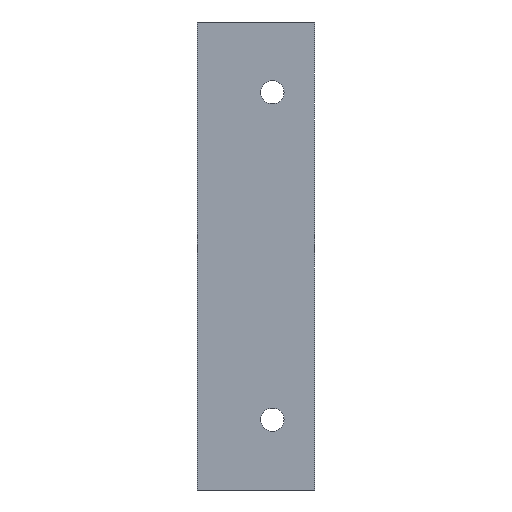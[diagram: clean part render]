
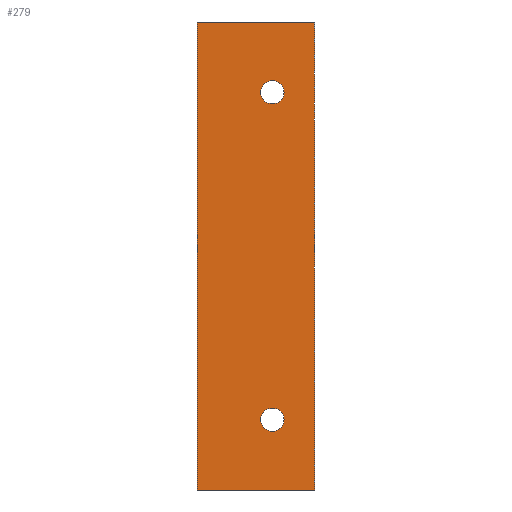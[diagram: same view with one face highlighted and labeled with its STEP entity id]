
A CAD part, front view. The second image highlights one B-rep face of the part: STEP entity #279.
In plain terms, the highlighted planar face has unit normal (0, -1, 0).
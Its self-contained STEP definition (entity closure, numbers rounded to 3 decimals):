
#7 = EDGE_LOOP ( 'NONE', ( #338, #557, #601, #68 ) ) ;
#24 = DIRECTION ( 'NONE',  ( 0., 0., 1. ) ) ;
#34 = DIRECTION ( 'NONE',  ( 0., 1., 0. ) ) ;
#47 = CARTESIAN_POINT ( 'NONE',  ( 25., 0., 50. ) ) ;
#56 = CARTESIAN_POINT ( 'NONE',  ( 16., 0., 32.5 ) ) ;
#67 = CIRCLE ( 'NONE', #143, 2.5 ) ;
#68 = ORIENTED_EDGE ( 'NONE', *, *, #425, .T. ) ;
#84 = CIRCLE ( 'NONE', #769, 2.5 ) ;
#89 = CARTESIAN_POINT ( 'NONE',  ( 16., 0., 37.5 ) ) ;
#93 = LINE ( 'NONE', #391, #132 ) ;
#94 = CARTESIAN_POINT ( 'NONE',  ( 16., 0., 35. ) ) ;
#96 = CARTESIAN_POINT ( 'NONE',  ( 16., 0., -35. ) ) ;
#103 = LINE ( 'NONE', #578, #605 ) ;
#132 = VECTOR ( 'NONE', #632, 1000. ) ;
#142 = EDGE_CURVE ( 'NONE', #821, #820, #539, .T. ) ;
#143 = AXIS2_PLACEMENT_3D ( 'NONE', #96, #290, #679 ) ;
#150 = EDGE_CURVE ( 'NONE', #179, #737, #556, .T. ) ;
#157 = EDGE_CURVE ( 'NONE', #737, #179, #368, .T. ) ;
#179 = VERTEX_POINT ( 'NONE', #89 ) ;
#180 = CARTESIAN_POINT ( 'NONE',  ( 0., 0., 50. ) ) ;
#189 = VERTEX_POINT ( 'NONE', #725 ) ;
#232 = VERTEX_POINT ( 'NONE', #299 ) ;
#247 = DIRECTION ( 'NONE',  ( 1., 0., 0. ) ) ;
#261 = VERTEX_POINT ( 'NONE', #622 ) ;
#279 = ADVANCED_FACE ( 'NONE', ( #543, #408, #473 ), #792, .F. ) ;
#290 = DIRECTION ( 'NONE',  ( 0., 1., 0. ) ) ;
#292 = AXIS2_PLACEMENT_3D ( 'NONE', #94, #780, #24 ) ;
#299 = CARTESIAN_POINT ( 'NONE',  ( 0., 0., -50. ) ) ;
#300 = DIRECTION ( 'NONE',  ( 0., 1., 0. ) ) ;
#315 = EDGE_CURVE ( 'NONE', #261, #189, #84, .T. ) ;
#321 = ORIENTED_EDGE ( 'NONE', *, *, #157, .T. ) ;
#335 = AXIS2_PLACEMENT_3D ( 'NONE', #729, #478, #417 ) ;
#338 = ORIENTED_EDGE ( 'NONE', *, *, #499, .T. ) ;
#340 = VERTEX_POINT ( 'NONE', #180 ) ;
#368 = CIRCLE ( 'NONE', #292, 2.5 ) ;
#373 = LINE ( 'NONE', #431, #537 ) ;
#380 = CARTESIAN_POINT ( 'NONE',  ( 25., 0., -50. ) ) ;
#384 = EDGE_CURVE ( 'NONE', #340, #821, #103, .T. ) ;
#391 = CARTESIAN_POINT ( 'NONE',  ( 0., 0., -50. ) ) ;
#406 = EDGE_CURVE ( 'NONE', #189, #261, #67, .T. ) ;
#408 = FACE_BOUND ( 'NONE', #576, .T. ) ;
#417 = DIRECTION ( 'NONE',  ( 0., 0., 1. ) ) ;
#425 = EDGE_CURVE ( 'NONE', #340, #232, #373, .T. ) ;
#428 = CARTESIAN_POINT ( 'NONE',  ( 0., 0., 50. ) ) ;
#431 = CARTESIAN_POINT ( 'NONE',  ( 0., 0., 50. ) ) ;
#473 = FACE_OUTER_BOUND ( 'NONE', #7, .T. ) ;
#478 = DIRECTION ( 'NONE',  ( 0., 1., 0. ) ) ;
#487 = DIRECTION ( 'NONE',  ( 0., 0., -1. ) ) ;
#494 = DIRECTION ( 'NONE',  ( 0., 0., 1. ) ) ;
#498 = DIRECTION ( 'NONE',  ( 0., 0., -1. ) ) ;
#499 = EDGE_CURVE ( 'NONE', #232, #820, #93, .T. ) ;
#500 = CARTESIAN_POINT ( 'NONE',  ( 16., 0., -35. ) ) ;
#537 = VECTOR ( 'NONE', #498, 1000. ) ;
#539 = LINE ( 'NONE', #782, #721 ) ;
#543 = FACE_BOUND ( 'NONE', #659, .T. ) ;
#556 = CIRCLE ( 'NONE', #335, 2.5 ) ;
#557 = ORIENTED_EDGE ( 'NONE', *, *, #142, .F. ) ;
#569 = AXIS2_PLACEMENT_3D ( 'NONE', #428, #34, #494 ) ;
#576 = EDGE_LOOP ( 'NONE', ( #577, #321 ) ) ;
#577 = ORIENTED_EDGE ( 'NONE', *, *, #150, .T. ) ;
#578 = CARTESIAN_POINT ( 'NONE',  ( 0., 0., 50. ) ) ;
#587 = ORIENTED_EDGE ( 'NONE', *, *, #315, .T. ) ;
#601 = ORIENTED_EDGE ( 'NONE', *, *, #384, .F. ) ;
#605 = VECTOR ( 'NONE', #247, 1000. ) ;
#622 = CARTESIAN_POINT ( 'NONE',  ( 16., 0., -32.5 ) ) ;
#632 = DIRECTION ( 'NONE',  ( 1., 0., 0. ) ) ;
#659 = EDGE_LOOP ( 'NONE', ( #587, #713 ) ) ;
#679 = DIRECTION ( 'NONE',  ( 0., 0., 1. ) ) ;
#713 = ORIENTED_EDGE ( 'NONE', *, *, #406, .T. ) ;
#721 = VECTOR ( 'NONE', #487, 1000. ) ;
#725 = CARTESIAN_POINT ( 'NONE',  ( 16., 0., -37.5 ) ) ;
#729 = CARTESIAN_POINT ( 'NONE',  ( 16., 0., 35. ) ) ;
#737 = VERTEX_POINT ( 'NONE', #56 ) ;
#741 = DIRECTION ( 'NONE',  ( 0., 0., 1. ) ) ;
#769 = AXIS2_PLACEMENT_3D ( 'NONE', #500, #300, #741 ) ;
#780 = DIRECTION ( 'NONE',  ( 0., 1., 0. ) ) ;
#782 = CARTESIAN_POINT ( 'NONE',  ( 25., 0., 50. ) ) ;
#792 = PLANE ( 'NONE',  #569 ) ;
#820 = VERTEX_POINT ( 'NONE', #380 ) ;
#821 = VERTEX_POINT ( 'NONE', #47 ) ;
